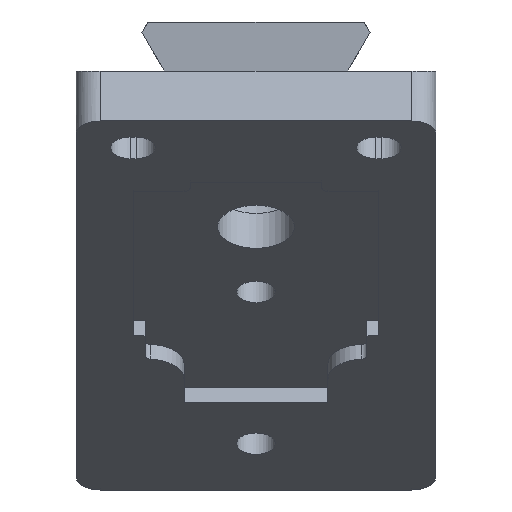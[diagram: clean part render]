
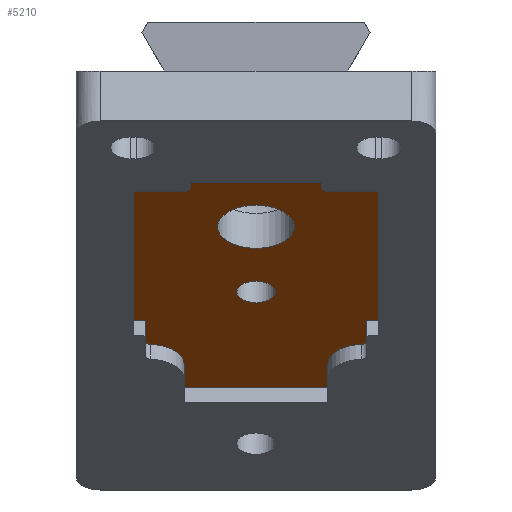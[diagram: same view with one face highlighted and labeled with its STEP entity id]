
A CAD part, left-side view. The second image highlights one B-rep face of the part: STEP entity #5210.
In plain terms, the highlighted planar face has unit normal (-0.559, 0, -0.829).
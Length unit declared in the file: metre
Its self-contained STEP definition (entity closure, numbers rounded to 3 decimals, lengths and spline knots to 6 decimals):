
#292=CIRCLE('',#5252,0.0016);
#294=CIRCLE('',#5255,0.0032);
#355=CIRCLE('',#5540,0.0005);
#356=CIRCLE('',#5541,0.003);
#357=CIRCLE('',#5542,0.003);
#358=CIRCLE('',#5543,0.0005);
#359=CIRCLE('',#5544,0.0005);
#360=CIRCLE('',#5545,0.0005);
#1801=ORIENTED_EDGE('',*,*,#2592,.T.);
#1802=ORIENTED_EDGE('',*,*,#2606,.T.);
#1803=ORIENTED_EDGE('',*,*,#2607,.T.);
#1804=ORIENTED_EDGE('',*,*,#2593,.T.);
#1805=ORIENTED_EDGE('',*,*,#2597,.T.);
#1806=ORIENTED_EDGE('',*,*,#2599,.F.);
#1807=ORIENTED_EDGE('',*,*,#2608,.T.);
#1808=ORIENTED_EDGE('',*,*,#2609,.T.);
#1809=ORIENTED_EDGE('',*,*,#2600,.F.);
#1810=ORIENTED_EDGE('',*,*,#2604,.F.);
#1811=ORIENTED_EDGE('',*,*,#2605,.T.);
#1812=ORIENTED_EDGE('',*,*,#2575,.F.);
#1813=ORIENTED_EDGE('',*,*,#2610,.T.);
#1814=ORIENTED_EDGE('',*,*,#2577,.T.);
#1815=ORIENTED_EDGE('',*,*,#2581,.T.);
#1816=ORIENTED_EDGE('',*,*,#2583,.F.);
#1817=ORIENTED_EDGE('',*,*,#2611,.T.);
#1818=ORIENTED_EDGE('',*,*,#2584,.F.);
#1819=ORIENTED_EDGE('',*,*,#2588,.F.);
#1820=ORIENTED_EDGE('',*,*,#2590,.F.);
#1821=ORIENTED_EDGE('',*,*,#1901,.F.);
#1822=ORIENTED_EDGE('',*,*,#1903,.F.);
#1901=EDGE_CURVE('',#2652,#2652,#292,.T.);
#1903=EDGE_CURVE('',#2654,#2654,#294,.T.);
#2575=EDGE_CURVE('',#3099,#3100,#3600,.T.);
#2577=EDGE_CURVE('',#3101,#3102,#3602,.T.);
#2581=EDGE_CURVE('',#3102,#3103,#3606,.T.);
#2583=EDGE_CURVE('',#3104,#3103,#3608,.T.);
#2584=EDGE_CURVE('',#3105,#3106,#3609,.T.);
#2588=EDGE_CURVE('',#3107,#3105,#3613,.T.);
#2590=EDGE_CURVE('',#3108,#3107,#3615,.T.);
#2592=EDGE_CURVE('',#3108,#3109,#3617,.T.);
#2593=EDGE_CURVE('',#3110,#3111,#3618,.T.);
#2597=EDGE_CURVE('',#3111,#3112,#3622,.T.);
#2599=EDGE_CURVE('',#3113,#3112,#3624,.T.);
#2600=EDGE_CURVE('',#3114,#3115,#3625,.T.);
#2604=EDGE_CURVE('',#3116,#3114,#3629,.T.);
#2605=EDGE_CURVE('',#3116,#3100,#3630,.T.);
#2606=EDGE_CURVE('',#3109,#3117,#355,.T.);
#2607=EDGE_CURVE('',#3117,#3110,#356,.F.);
#2608=EDGE_CURVE('',#3113,#3118,#357,.F.);
#2609=EDGE_CURVE('',#3118,#3115,#358,.T.);
#2610=EDGE_CURVE('',#3099,#3101,#359,.F.);
#2611=EDGE_CURVE('',#3104,#3106,#360,.F.);
#2652=VERTEX_POINT('',#6796);
#2654=VERTEX_POINT('',#6801);
#3099=VERTEX_POINT('',#8871);
#3100=VERTEX_POINT('',#8873);
#3101=VERTEX_POINT('',#8877);
#3102=VERTEX_POINT('',#8878);
#3103=VERTEX_POINT('',#8883);
#3104=VERTEX_POINT('',#8887);
#3105=VERTEX_POINT('',#8891);
#3106=VERTEX_POINT('',#8892);
#3107=VERTEX_POINT('',#8897);
#3108=VERTEX_POINT('',#8901);
#3109=VERTEX_POINT('',#8905);
#3110=VERTEX_POINT('',#8909);
#3111=VERTEX_POINT('',#8910);
#3112=VERTEX_POINT('',#8915);
#3113=VERTEX_POINT('',#8919);
#3114=VERTEX_POINT('',#8923);
#3115=VERTEX_POINT('',#8924);
#3116=VERTEX_POINT('',#8929);
#3117=VERTEX_POINT('',#8935);
#3118=VERTEX_POINT('',#8938);
#3600=LINE('',#8872,#4114);
#3602=LINE('',#8876,#4116);
#3606=LINE('',#8884,#4120);
#3608=LINE('',#8888,#4122);
#3609=LINE('',#8890,#4123);
#3613=LINE('',#8898,#4127);
#3615=LINE('',#8902,#4129);
#3617=LINE('',#8906,#4131);
#3618=LINE('',#8908,#4132);
#3622=LINE('',#8916,#4136);
#3624=LINE('',#8920,#4138);
#3625=LINE('',#8922,#4139);
#3629=LINE('',#8930,#4143);
#3630=LINE('',#8932,#4144);
#4114=VECTOR('',#6623,1.);
#4116=VECTOR('',#6627,1.);
#4120=VECTOR('',#6633,1.);
#4122=VECTOR('',#6637,1.);
#4123=VECTOR('',#6640,1.);
#4127=VECTOR('',#6646,1.);
#4129=VECTOR('',#6650,1.);
#4131=VECTOR('',#6654,1.);
#4132=VECTOR('',#6657,1.);
#4136=VECTOR('',#6663,1.);
#4138=VECTOR('',#6667,1.);
#4139=VECTOR('',#6670,1.);
#4143=VECTOR('',#6676,1.);
#4144=VECTOR('',#6679,1.);
#4450=EDGE_LOOP('',(#1801,#1802,#1803,#1804,#1805,#1806,#1807,#1808,#1809,
#1810,#1811,#1812,#1813,#1814,#1815,#1816,#1817,#1818,#1819,#1820));
#4451=EDGE_LOOP('',(#1821));
#4452=EDGE_LOOP('',(#1822));
#4766=FACE_BOUND('',#4450,.T.);
#4767=FACE_BOUND('',#4451,.T.);
#4768=FACE_BOUND('',#4452,.T.);
#4943=PLANE('',#5539);
#5210=ADVANCED_FACE('',(#4766,#4767,#4768),#4943,.T.);
#5252=AXIS2_PLACEMENT_3D('',#6795,#5616,#5617);
#5255=AXIS2_PLACEMENT_3D('',#6800,#5622,#5623);
#5539=AXIS2_PLACEMENT_3D('',#8933,#6680,#6681);
#5540=AXIS2_PLACEMENT_3D('',#8934,#6682,#6683);
#5541=AXIS2_PLACEMENT_3D('',#8936,#6684,#6685);
#5542=AXIS2_PLACEMENT_3D('',#8937,#6686,#6687);
#5543=AXIS2_PLACEMENT_3D('',#8939,#6688,#6689);
#5544=AXIS2_PLACEMENT_3D('',#8940,#6690,#6691);
#5545=AXIS2_PLACEMENT_3D('',#8941,#6692,#6693);
#5616=DIRECTION('',(-0.559,0.,-0.829));
#5617=DIRECTION('',(-0.829,0.,0.559));
#5622=DIRECTION('',(-0.559,0.,-0.829));
#5623=DIRECTION('',(-0.829,0.,0.559));
#6623=DIRECTION('',(0.,-1.,0.));
#6627=DIRECTION('',(-0.829,0.,0.559));
#6633=DIRECTION('',(0.,1.,0.));
#6637=DIRECTION('',(-0.829,0.,0.559));
#6640=DIRECTION('',(0.,-1.,0.));
#6646=DIRECTION('',(-0.829,0.,0.559));
#6650=DIRECTION('',(0.,1.,0.));
#6654=DIRECTION('',(0.829,0.,-0.559));
#6657=DIRECTION('',(0.829,0.,-0.559));
#6663=DIRECTION('',(0.,-1.,0.));
#6667=DIRECTION('',(0.829,0.,-0.559));
#6670=DIRECTION('',(0.829,0.,-0.559));
#6676=DIRECTION('',(0.,1.,0.));
#6679=DIRECTION('',(-0.829,0.,0.559));
#6680=DIRECTION('',(-0.559,0.,-0.829));
#6681=DIRECTION('',(0.829,0.,-0.559));
#6682=DIRECTION('',(-0.559,0.,-0.829));
#6683=DIRECTION('',(-0.829,0.,0.559));
#6684=DIRECTION('',(-0.559,0.,-0.829));
#6685=DIRECTION('',(-0.829,0.,0.559));
#6686=DIRECTION('',(-0.559,0.,-0.829));
#6687=DIRECTION('',(-0.829,0.,0.559));
#6688=DIRECTION('',(-0.559,0.,-0.829));
#6689=DIRECTION('',(-0.829,0.,0.559));
#6690=DIRECTION('',(-0.559,0.,-0.829));
#6691=DIRECTION('',(-0.829,0.,0.559));
#6692=DIRECTION('',(-0.559,0.,-0.829));
#6693=DIRECTION('',(-0.829,0.,0.559));
#6795=CARTESIAN_POINT('',(0.021006,0.,-0.018393));
#6796=CARTESIAN_POINT('',(0.01968,0.,-0.017498));
#6800=CARTESIAN_POINT('',(0.012964,0.,-0.012969));
#6801=CARTESIAN_POINT('',(0.010311,0.,-0.011179));
#8871=CARTESIAN_POINT('',(0.006747,-0.006,-0.008775));
#8872=CARTESIAN_POINT('',(0.006747,-0.007875,-0.008775));
#8873=CARTESIAN_POINT('',(0.006747,-0.01025,-0.008775));
#8876=CARTESIAN_POINT('',(0.006166,-0.0055,-0.008383));
#8877=CARTESIAN_POINT('',(0.006332,-0.0055,-0.008495));
#8878=CARTESIAN_POINT('',(0.005586,-0.0055,-0.007992));
#8883=CARTESIAN_POINT('',(0.005586,0.0055,-0.007992));
#8884=CARTESIAN_POINT('',(0.005586,0.,-0.007992));
#8887=CARTESIAN_POINT('',(0.006332,0.0055,-0.008495));
#8888=CARTESIAN_POINT('',(0.006166,0.0055,-0.008383));
#8890=CARTESIAN_POINT('',(0.006747,0.007875,-0.008775));
#8891=CARTESIAN_POINT('',(0.006747,0.01025,-0.008775));
#8892=CARTESIAN_POINT('',(0.006747,0.006,-0.008775));
#8897=CARTESIAN_POINT('',(0.024571,0.01025,-0.020797));
#8898=CARTESIAN_POINT('',(0.015659,0.01025,-0.014786));
#8901=CARTESIAN_POINT('',(0.024571,0.00925,-0.020797));
#8902=CARTESIAN_POINT('',(0.024571,0.00975,-0.020797));
#8905=CARTESIAN_POINT('',(0.027065,0.00925,-0.02248));
#8906=CARTESIAN_POINT('',(0.026022,0.00925,-0.021776));
#8908=CARTESIAN_POINT('',(0.030167,0.006,-0.024572));
#8909=CARTESIAN_POINT('',(0.02996,0.006,-0.024432));
#8910=CARTESIAN_POINT('',(0.032861,0.006,-0.026389));
#8915=CARTESIAN_POINT('',(0.032861,-0.006,-0.026389));
#8916=CARTESIAN_POINT('',(0.032861,0.,-0.026389));
#8919=CARTESIAN_POINT('',(0.02996,-0.006,-0.024432));
#8920=CARTESIAN_POINT('',(0.030167,-0.006,-0.024572));
#8922=CARTESIAN_POINT('',(0.026022,-0.00925,-0.021776));
#8923=CARTESIAN_POINT('',(0.024571,-0.00925,-0.020797));
#8924=CARTESIAN_POINT('',(0.027065,-0.00925,-0.02248));
#8929=CARTESIAN_POINT('',(0.024571,-0.01025,-0.020797));
#8930=CARTESIAN_POINT('',(0.024571,-0.00975,-0.020797));
#8932=CARTESIAN_POINT('',(0.018768,-0.01025,-0.016883));
#8933=CARTESIAN_POINT('',(0.02084,0.,-0.018281));
#8934=CARTESIAN_POINT('',(0.027065,0.00875,-0.02248));
#8935=CARTESIAN_POINT('',(0.027479,0.008786,-0.022759));
#8936=CARTESIAN_POINT('',(0.02996,0.009,-0.024432));
#8937=CARTESIAN_POINT('',(0.02996,-0.009,-0.024432));
#8938=CARTESIAN_POINT('',(0.027479,-0.008786,-0.022759));
#8939=CARTESIAN_POINT('',(0.027065,-0.00875,-0.02248));
#8940=CARTESIAN_POINT('',(0.006332,-0.006,-0.008495));
#8941=CARTESIAN_POINT('',(0.006332,0.006,-0.008495));
